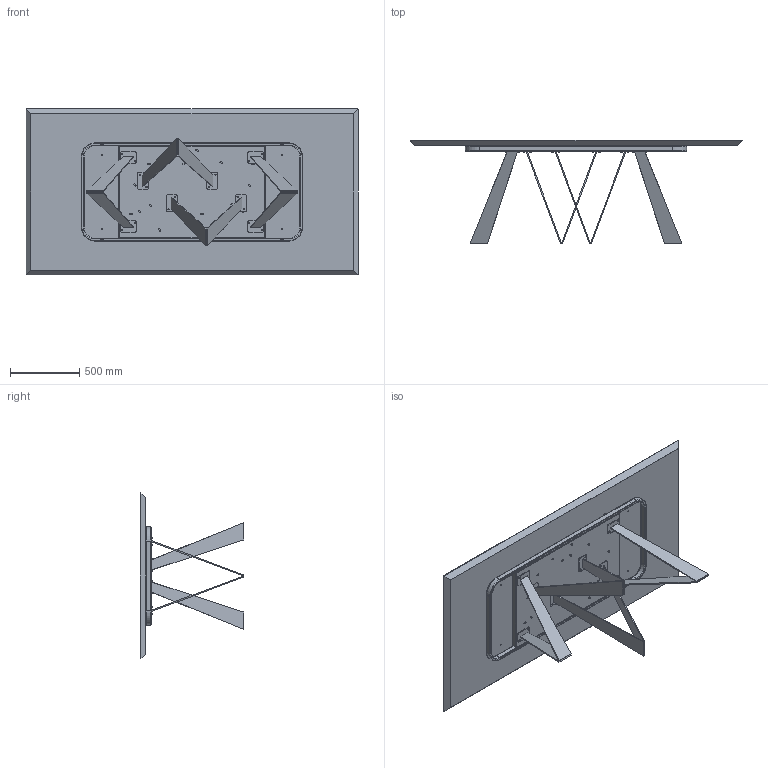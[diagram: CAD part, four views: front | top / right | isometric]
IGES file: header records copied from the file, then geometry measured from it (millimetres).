
Start section: SolidWorks IGES file using analytic representation for surfaces
Global section: file name: Y:\eforma\TECNICO\SOLIDWORKS\E-FORMA\1-TAVOLI\NOA TAVOLO\02 parts\NO23W_Noa_240x120x75h_Wood Rectangular.IGS; native system: SolidWorks 2022; preprocessor: SolidWorks 2022; author: eforma.tech; date: 240807.162919; units: millimetre
Bounding box: 2400 x 747.8 x 1200 mm (x, y, z)
Volume: 114222812.1 mm3; surface area: 9932038.2 mm2
Topology: 70 solids, 70 shells, 1684 faces, 3862 edges, 2283 vertices
Faces by surface type: revolution 1044, plane 640
